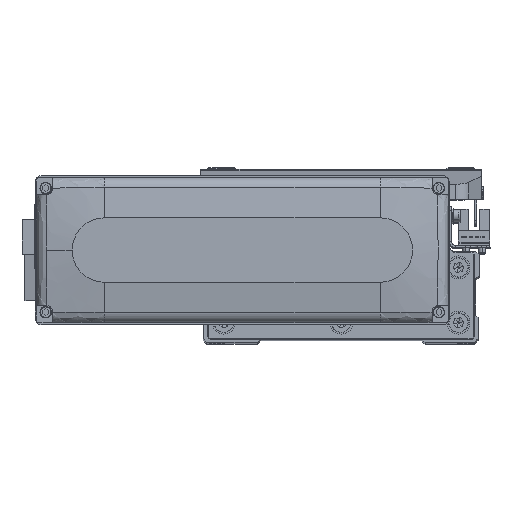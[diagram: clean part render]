
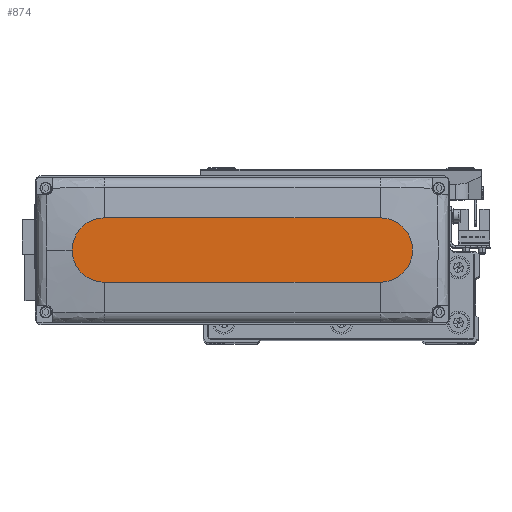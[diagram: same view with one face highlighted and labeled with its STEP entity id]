
A CAD part, top view. The second image highlights one B-rep face of the part: STEP entity #874.
In plain terms, the highlighted planar face has unit normal (0, 0, 1).
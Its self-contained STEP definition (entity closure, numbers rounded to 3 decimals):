
#112 = DIRECTION ( 'NONE',  ( 0., 0., 1. ) ) ;
#216 = DIRECTION ( 'NONE',  ( 0., 0., 1. ) ) ;
#874 = ADVANCED_FACE ( 'NONE', ( #36558 ), #14603, .T. ) ;
#2597 = CARTESIAN_POINT ( 'NONE',  ( 74., 0., 28.5 ) ) ;
#2732 = LINE ( 'NONE', #32641, #13326 ) ;
#4291 = EDGE_LOOP ( 'NONE', ( #17499, #33620, #12425, #11581, #13278 ) ) ;
#5977 = CARTESIAN_POINT ( 'NONE',  ( -60., 0., 28.5 ) ) ;
#8459 = AXIS2_PLACEMENT_3D ( 'NONE', #34275, #19867, #37593 ) ;
#9530 = VERTEX_POINT ( 'NONE', #2597 ) ;
#9541 = VERTEX_POINT ( 'NONE', #16179 ) ;
#9944 = DIRECTION ( 'NONE',  ( 1., 0., 0. ) ) ;
#10198 = VECTOR ( 'NONE', #16735, 1000. ) ;
#10987 = EDGE_CURVE ( 'NONE', #26983, #38879, #2732, .T. ) ;
#11581 = ORIENTED_EDGE ( 'NONE', *, *, #39857, .T. ) ;
#12425 = ORIENTED_EDGE ( 'NONE', *, *, #10987, .T. ) ;
#12995 = EDGE_CURVE ( 'NONE', #9541, #26983, #31025, .T. ) ;
#13278 = ORIENTED_EDGE ( 'NONE', *, *, #39436, .T. ) ;
#13326 = VECTOR ( 'NONE', #25993, 1000. ) ;
#14603 = PLANE ( 'NONE',  #20811 ) ;
#16179 = CARTESIAN_POINT ( 'NONE',  ( -60., 14., 28.5 ) ) ;
#16248 = CIRCLE ( 'NONE', #8459, 14. ) ;
#16735 = DIRECTION ( 'NONE',  ( -1., 0., 0. ) ) ;
#17499 = ORIENTED_EDGE ( 'NONE', *, *, #23038, .T. ) ;
#18418 = CIRCLE ( 'NONE', #23370, 14. ) ;
#19867 = DIRECTION ( 'NONE',  ( 0., 0., 1. ) ) ;
#20811 = AXIS2_PLACEMENT_3D ( 'NONE', #34546, #24782, #41658 ) ;
#23038 = EDGE_CURVE ( 'NONE', #25596, #9541, #37559, .T. ) ;
#23128 = CARTESIAN_POINT ( 'NONE',  ( 60., 0., 28.5 ) ) ;
#23370 = AXIS2_PLACEMENT_3D ( 'NONE', #23128, #112, #40888 ) ;
#24782 = DIRECTION ( 'NONE',  ( 0., 0., 1. ) ) ;
#25596 = VERTEX_POINT ( 'NONE', #26539 ) ;
#25993 = DIRECTION ( 'NONE',  ( 1., 0., 0. ) ) ;
#26539 = CARTESIAN_POINT ( 'NONE',  ( 60., 14., 28.5 ) ) ;
#26983 = VERTEX_POINT ( 'NONE', #30290 ) ;
#30290 = CARTESIAN_POINT ( 'NONE',  ( -60., -14., 28.5 ) ) ;
#31025 = CIRCLE ( 'NONE', #41583, 14. ) ;
#32404 = CARTESIAN_POINT ( 'NONE',  ( 60., -14., 28.5 ) ) ;
#32641 = CARTESIAN_POINT ( 'NONE',  ( -60., -14., 28.5 ) ) ;
#33620 = ORIENTED_EDGE ( 'NONE', *, *, #12995, .T. ) ;
#34030 = CARTESIAN_POINT ( 'NONE',  ( -60., 14., 28.5 ) ) ;
#34275 = CARTESIAN_POINT ( 'NONE',  ( 60., 0., 28.5 ) ) ;
#34546 = CARTESIAN_POINT ( 'NONE',  ( 0., 0., 28.5 ) ) ;
#36558 = FACE_OUTER_BOUND ( 'NONE', #4291, .T. ) ;
#37559 = LINE ( 'NONE', #34030, #10198 ) ;
#37593 = DIRECTION ( 'NONE',  ( 1., 0., 0. ) ) ;
#38879 = VERTEX_POINT ( 'NONE', #32404 ) ;
#39436 = EDGE_CURVE ( 'NONE', #9530, #25596, #16248, .T. ) ;
#39857 = EDGE_CURVE ( 'NONE', #38879, #9530, #18418, .T. ) ;
#40888 = DIRECTION ( 'NONE',  ( 1., 0., 0. ) ) ;
#41583 = AXIS2_PLACEMENT_3D ( 'NONE', #5977, #216, #9944 ) ;
#41658 = DIRECTION ( 'NONE',  ( 1., 0., 0. ) ) ;
